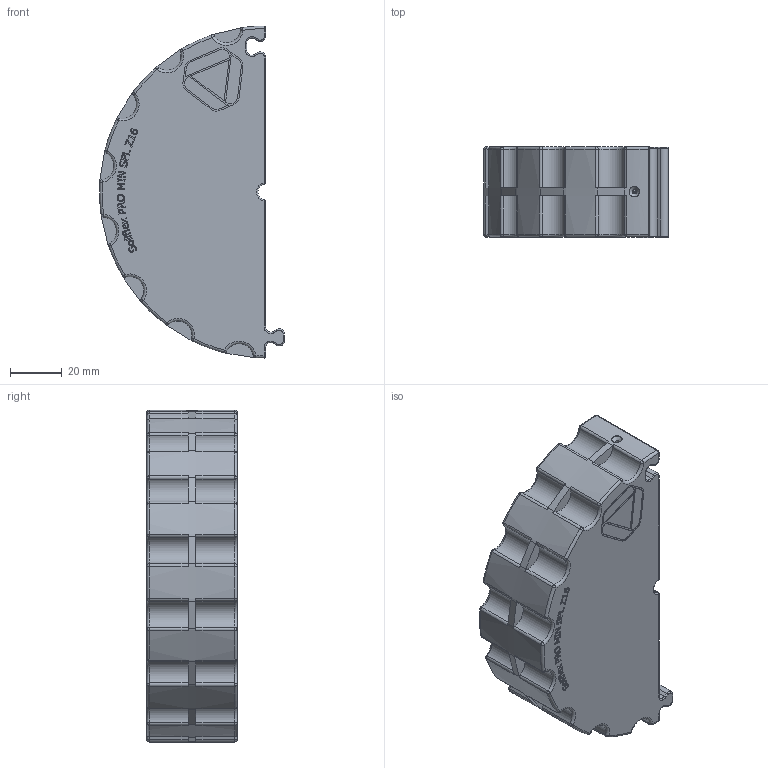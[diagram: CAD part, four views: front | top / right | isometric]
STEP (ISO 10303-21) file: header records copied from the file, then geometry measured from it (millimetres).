
FILE_DESCRIPTION(/* description */ ('Unknown'),/* implementation_level */ '2;1');
FILE_NAME(/* name */ 'GEN0001-D323 MIN Z16 D128.5 SPL PB06 BLUE',/* time_stamp */ '2020-03-18T12:08:08+01:00',/* author */ ('Unknown'),/* organization */ ('Unknown'),/* preprocessor_version */ 'ST-DEVELOPER v16.7',/* originating_system */ 'DEX',/* authorisation */ $);
FILE_SCHEMA (('AUTOMOTIVE_DESIGN {1 0 10303 214 3 1 1}'));
Length unit declared in the file: millimetre
Products named in the file (1): GEN0001-D323 MIN Z16 D128.5 SPL PB06 BLUE
Bounding box: 71.58 x 35 x 128.5 mm (x, y, z)
Volume: 216400.7 mm3; surface area: 26375.9 mm2
Topology: 1 solids, 1 shells, 453 faces, 1142 edges, 688 vertices
Faces by surface type: plane 221, cylinder 107, torus 52, sphere 36, bspline 36, cone 1
Full cylindrical faces by diameter (mm): 1.65 x2, 4.05 x1
Entity records: 14947 total; most frequent: CARTESIAN_POINT 4296, DIRECTION 2220, ORIENTED_EDGE 2190, EDGE_CURVE 1095, AXIS2_PLACEMENT_3D 782, VERTEX_POINT 685, LINE 656, VECTOR 656
